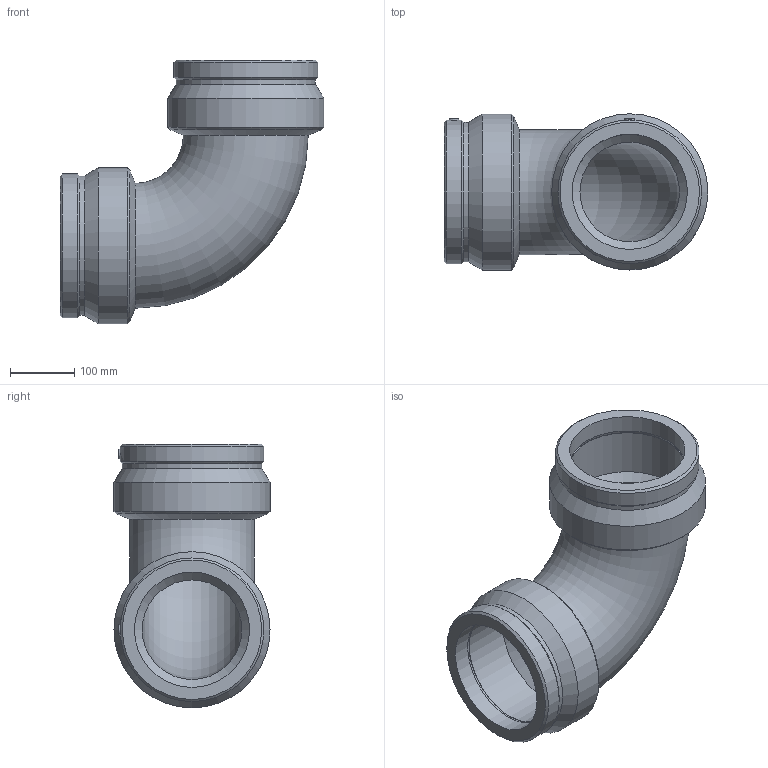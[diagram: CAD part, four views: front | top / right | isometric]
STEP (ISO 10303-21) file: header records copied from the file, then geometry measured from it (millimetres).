
FILE_DESCRIPTION(/* description */ ('PLASSON 90° ELBOW 180'),/* implementation_level */ '2;1');
FILE_NAME(/* name */ '490504180.stp',/* time_stamp */ '2026-03-22T13:12:52+02:00',/* author */ ('KIM'),/* organization */ (''),/* preprocessor_version */ 'ST-DEVELOPER v20.1',/* originating_system */ 'Autodesk Inventor 2026',/* authorisation */ '');
FILE_SCHEMA (('AUTOMOTIVE_DESIGN { 1 0 10303 214 3 1 1 }'));
Length unit declared in the file: millimetre
Products named in the file (1): 490504180
Bounding box: 412 x 244 x 412 mm (x, y, z)
Volume: 7047398.7 mm3; surface area: 663670.6 mm2
Topology: 1 solids, 1 shells, 42 faces, 82 edges, 50 vertices
Faces by surface type: cone 16, cylinder 14, plane 10, torus 2
Full cylindrical faces by diameter (mm): 4 x2, 10 x2, 180 x4, 217.746 x2, 224.48 x2, 244 x2
Entity records: 1189 total; most frequent: CARTESIAN_POINT 243, DIRECTION 212, ORIENTED_EDGE 164, AXIS2_PLACEMENT_3D 91, EDGE_CURVE 82, EDGE_LOOP 52, VERTEX_POINT 50, CIRCLE 48
